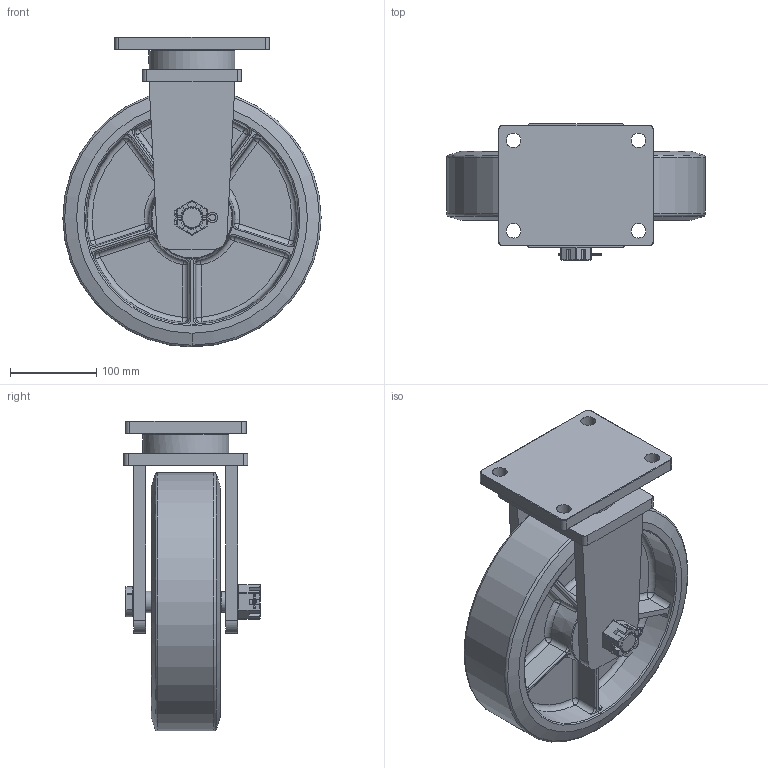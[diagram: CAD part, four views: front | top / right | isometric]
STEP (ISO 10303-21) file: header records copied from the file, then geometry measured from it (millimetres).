
FILE_DESCRIPTION(/* description */ (''),/* implementation_level */ '2;1');
FILE_NAME(/* name */ '40A20_12_F.stp',/* time_stamp */ '2022-08-29T10:07:40+08:00',/* author */ (''),/* organization */ (''),/* preprocessor_version */ 'ST-DEVELOPER v14',/* originating_system */ 'SIEMENS PLM Software NX 8.0',/* authorisation */ '');
FILE_SCHEMA (('AUTOMOTIVE_DESIGN { 1 0 10303 214 3 1 1 1 }'));
Length unit declared in the file: millimetre
Products named in the file (1): 40A20_12_F
Bounding box: 300 x 158.5 x 360 mm (x, y, z)
Volume: 4206490.7 mm3; surface area: 501008.9 mm2
Topology: 1 solids, 2 shells, 670 faces, 1719 edges, 1045 vertices
Faces by surface type: plane 300, cylinder 191, bspline 55, torus 47, sphere 44, cone 29, revolution 4
Full cylindrical faces by diameter (mm): 24 x1, 25.5 x2, 100 x1
Entity records: 24003 total; most frequent: CARTESIAN_POINT 9107, ORIENTED_EDGE 3330, DIRECTION 2758, EDGE_CURVE 1665, AXIS2_PLACEMENT_3D 1073, VERTEX_POINT 1041, EDGE_LOOP 726, ADVANCED_FACE 670
